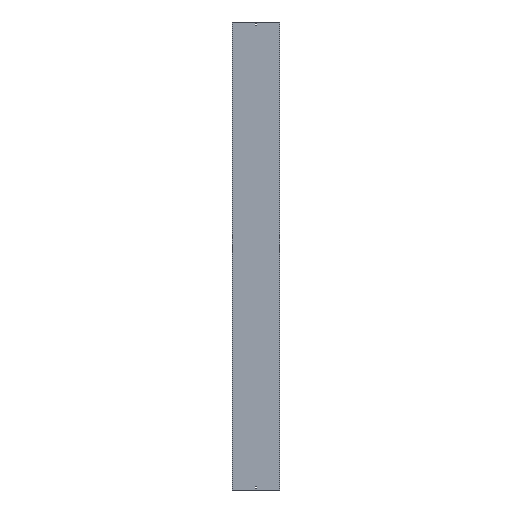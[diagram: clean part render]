
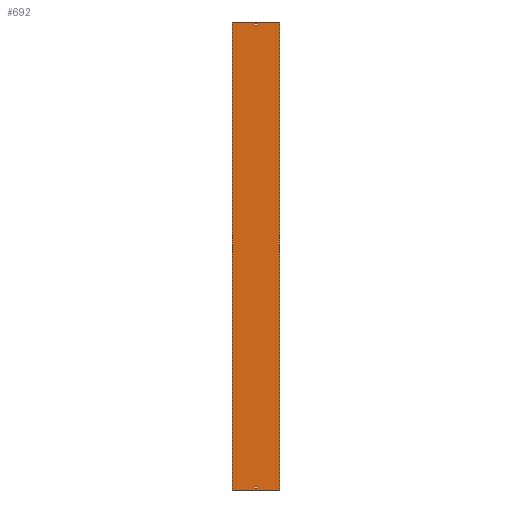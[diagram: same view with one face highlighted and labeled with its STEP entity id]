
A CAD part, front view. The second image highlights one B-rep face of the part: STEP entity #692.
In plain terms, the highlighted planar face has unit normal (0, -1, 0).
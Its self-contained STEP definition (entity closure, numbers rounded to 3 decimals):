
#9 = DIRECTION ( 'NONE',  ( 0., 0., -1. ) ) ;
#36 = EDGE_CURVE ( 'NONE', #467, #621, #917, .T. ) ;
#56 = EDGE_CURVE ( 'NONE', #279, #932, #233, .T. ) ;
#65 = CARTESIAN_POINT ( 'NONE',  ( -152., 0., 1500. ) ) ;
#67 = ORIENTED_EDGE ( 'NONE', *, *, #518, .T. ) ;
#79 = CARTESIAN_POINT ( 'NONE',  ( -3.25, 0., -1488. ) ) ;
#81 = ORIENTED_EDGE ( 'NONE', *, *, #952, .T. ) ;
#89 = VECTOR ( 'NONE', #977, 1000. ) ;
#105 = CARTESIAN_POINT ( 'NONE',  ( -3.25, 0., 1479. ) ) ;
#109 = ORIENTED_EDGE ( 'NONE', *, *, #911, .T. ) ;
#125 = CARTESIAN_POINT ( 'NONE',  ( -3.25, 0., 1488. ) ) ;
#132 = VERTEX_POINT ( 'NONE', #1103 ) ;
#164 = LINE ( 'NONE', #1029, #660 ) ;
#169 = LINE ( 'NONE', #532, #585 ) ;
#176 = CARTESIAN_POINT ( 'NONE',  ( -152., 0., 1500. ) ) ;
#178 = AXIS2_PLACEMENT_3D ( 'NONE', #641, #195, #885 ) ;
#191 = ORIENTED_EDGE ( 'NONE', *, *, #332, .F. ) ;
#195 = DIRECTION ( 'NONE',  ( 0., 1., 0. ) ) ;
#210 = VERTEX_POINT ( 'NONE', #855 ) ;
#233 = LINE ( 'NONE', #410, #752 ) ;
#236 = VECTOR ( 'NONE', #9, 1000. ) ;
#244 = DIRECTION ( 'NONE',  ( -1., 0., 0. ) ) ;
#249 = DIRECTION ( 'NONE',  ( 0., 0., -1. ) ) ;
#256 = CARTESIAN_POINT ( 'NONE',  ( -3.25, 0., -1488. ) ) ;
#262 = DIRECTION ( 'NONE',  ( 1., 0., 0. ) ) ;
#266 = CARTESIAN_POINT ( 'NONE',  ( 3.25, 0., 1488. ) ) ;
#275 = CARTESIAN_POINT ( 'NONE',  ( 3.25, 0., -1488. ) ) ;
#279 = VERTEX_POINT ( 'NONE', #589 ) ;
#332 = EDGE_CURVE ( 'NONE', #541, #467, #1050, .T. ) ;
#343 = VERTEX_POINT ( 'NONE', #614 ) ;
#363 = VECTOR ( 'NONE', #935, 1000. ) ;
#364 = ORIENTED_EDGE ( 'NONE', *, *, #716, .F. ) ;
#384 = CARTESIAN_POINT ( 'NONE',  ( 3.25, 0., 1488. ) ) ;
#410 = CARTESIAN_POINT ( 'NONE',  ( -152., 0., -1500. ) ) ;
#411 = VECTOR ( 'NONE', #244, 1000. ) ;
#416 = ORIENTED_EDGE ( 'NONE', *, *, #975, .F. ) ;
#420 = CARTESIAN_POINT ( 'NONE',  ( 152., 0., -1500. ) ) ;
#426 = CARTESIAN_POINT ( 'NONE',  ( -3.25, 0., -1479. ) ) ;
#429 = ORIENTED_EDGE ( 'NONE', *, *, #36, .F. ) ;
#467 = VERTEX_POINT ( 'NONE', #384 ) ;
#504 = EDGE_CURVE ( 'NONE', #730, #922, #787, .T. ) ;
#508 = DIRECTION ( 'NONE',  ( 1., 0., 0. ) ) ;
#518 = EDGE_CURVE ( 'NONE', #731, #279, #967, .T. ) ;
#532 = CARTESIAN_POINT ( 'NONE',  ( -3.25, 0., -1488. ) ) ;
#541 = VERTEX_POINT ( 'NONE', #1115 ) ;
#546 = ORIENTED_EDGE ( 'NONE', *, *, #504, .T. ) ;
#550 = CARTESIAN_POINT ( 'NONE',  ( -152., 0., 1500. ) ) ;
#561 = EDGE_LOOP ( 'NONE', ( #788, #109, #81, #546 ) ) ;
#563 = PLANE ( 'NONE',  #178 ) ;
#579 = VECTOR ( 'NONE', #1122, 1000. ) ;
#585 = VECTOR ( 'NONE', #590, 1000. ) ;
#587 = LINE ( 'NONE', #1010, #363 ) ;
#589 = CARTESIAN_POINT ( 'NONE',  ( -152., 0., -1500. ) ) ;
#590 = DIRECTION ( 'NONE',  ( 0., 0., 1. ) ) ;
#609 = DIRECTION ( 'NONE',  ( 0., 0., -1. ) ) ;
#614 = CARTESIAN_POINT ( 'NONE',  ( 152., 0., 1500. ) ) ;
#621 = VERTEX_POINT ( 'NONE', #125 ) ;
#641 = CARTESIAN_POINT ( 'NONE',  ( -152., 0., 1500. ) ) ;
#660 = VECTOR ( 'NONE', #1036, 1000. ) ;
#668 = ORIENTED_EDGE ( 'NONE', *, *, #875, .F. ) ;
#688 = VECTOR ( 'NONE', #249, 1000. ) ;
#692 = ADVANCED_FACE ( 'NONE', ( #1077, #979, #708 ), #563, .F. ) ;
#708 = FACE_BOUND ( 'NONE', #561, .T. ) ;
#716 = EDGE_CURVE ( 'NONE', #621, #1043, #813, .T. ) ;
#730 = VERTEX_POINT ( 'NONE', #275 ) ;
#731 = VERTEX_POINT ( 'NONE', #550 ) ;
#740 = DIRECTION ( 'NONE',  ( 1., 0., 0. ) ) ;
#752 = VECTOR ( 'NONE', #740, 1000. ) ;
#773 = LINE ( 'NONE', #426, #1092 ) ;
#787 = LINE ( 'NONE', #256, #579 ) ;
#788 = ORIENTED_EDGE ( 'NONE', *, *, #969, .T. ) ;
#794 = EDGE_CURVE ( 'NONE', #1043, #541, #587, .T. ) ;
#795 = CARTESIAN_POINT ( 'NONE',  ( -3.25, 0., 1488. ) ) ;
#813 = LINE ( 'NONE', #795, #236 ) ;
#855 = CARTESIAN_POINT ( 'NONE',  ( -3.25, 0., -1479. ) ) ;
#875 = EDGE_CURVE ( 'NONE', #343, #932, #1127, .T. ) ;
#879 = VECTOR ( 'NONE', #262, 1000. ) ;
#885 = DIRECTION ( 'NONE',  ( -1., 0., 0. ) ) ;
#893 = ORIENTED_EDGE ( 'NONE', *, *, #794, .F. ) ;
#911 = EDGE_CURVE ( 'NONE', #210, #132, #773, .T. ) ;
#917 = LINE ( 'NONE', #928, #411 ) ;
#922 = VERTEX_POINT ( 'NONE', #79 ) ;
#928 = CARTESIAN_POINT ( 'NONE',  ( -3.25, 0., 1488. ) ) ;
#932 = VERTEX_POINT ( 'NONE', #420 ) ;
#935 = DIRECTION ( 'NONE',  ( 1., 0., 0. ) ) ;
#939 = CARTESIAN_POINT ( 'NONE',  ( 152., 0., 1500. ) ) ;
#952 = EDGE_CURVE ( 'NONE', #132, #730, #164, .T. ) ;
#967 = LINE ( 'NONE', #176, #1001 ) ;
#969 = EDGE_CURVE ( 'NONE', #922, #210, #169, .T. ) ;
#975 = EDGE_CURVE ( 'NONE', #731, #343, #1107, .T. ) ;
#977 = DIRECTION ( 'NONE',  ( 0., 0., 1. ) ) ;
#979 = FACE_BOUND ( 'NONE', #1064, .T. ) ;
#1001 = VECTOR ( 'NONE', #609, 1000. ) ;
#1010 = CARTESIAN_POINT ( 'NONE',  ( -3.25, 0., 1479. ) ) ;
#1029 = CARTESIAN_POINT ( 'NONE',  ( 3.25, 0., -1488. ) ) ;
#1036 = DIRECTION ( 'NONE',  ( 0., 0., -1. ) ) ;
#1038 = ORIENTED_EDGE ( 'NONE', *, *, #56, .T. ) ;
#1043 = VERTEX_POINT ( 'NONE', #105 ) ;
#1050 = LINE ( 'NONE', #266, #89 ) ;
#1064 = EDGE_LOOP ( 'NONE', ( #893, #364, #429, #191 ) ) ;
#1077 = FACE_OUTER_BOUND ( 'NONE', #1134, .T. ) ;
#1092 = VECTOR ( 'NONE', #508, 1000. ) ;
#1103 = CARTESIAN_POINT ( 'NONE',  ( 3.25, 0., -1479. ) ) ;
#1107 = LINE ( 'NONE', #65, #879 ) ;
#1115 = CARTESIAN_POINT ( 'NONE',  ( 3.25, 0., 1479. ) ) ;
#1122 = DIRECTION ( 'NONE',  ( -1., 0., 0. ) ) ;
#1127 = LINE ( 'NONE', #939, #688 ) ;
#1134 = EDGE_LOOP ( 'NONE', ( #1038, #668, #416, #67 ) ) ;
